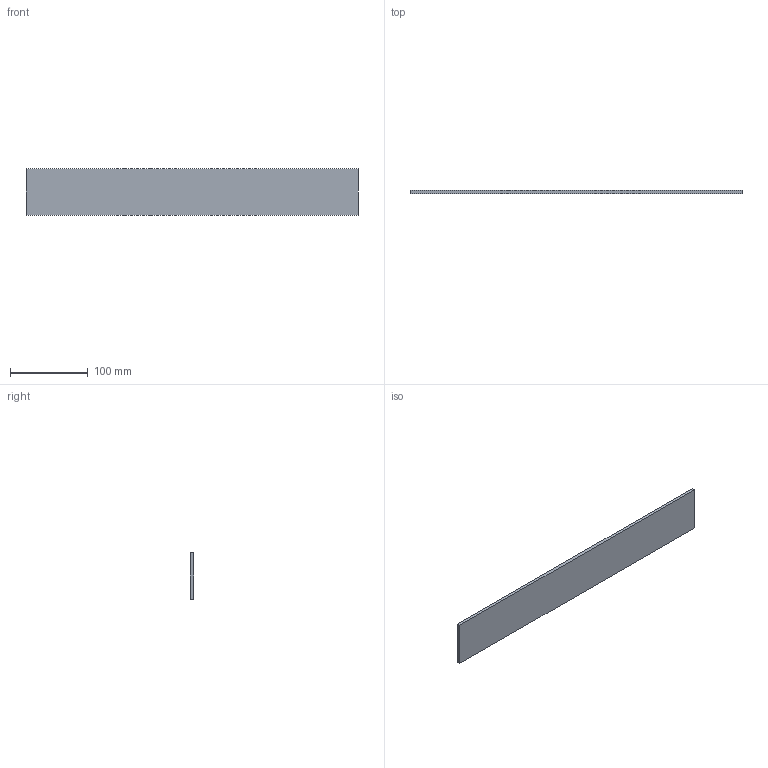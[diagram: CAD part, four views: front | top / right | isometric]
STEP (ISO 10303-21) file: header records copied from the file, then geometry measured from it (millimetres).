
FILE_DESCRIPTION(('CATIA V5 STEP Exchange'),'2;1');
FILE_NAME('C:\Users\user\Documents\Jakob\BAC - Arbeit 1\CAD Modell\CAD-Modell-Step files\Base\faceplate.stp','2018-12-13T14:14:45+00:00',('none'),('none'),'Version 5-6 Release 2012','CATIA V5 STEP AP203','none');
FILE_SCHEMA(('CONFIG_CONTROL_DESIGN'));
Length unit declared in the file: millimetre
Products named in the file (1): faceplate
Bounding box: 426 x 4 x 60 mm (x, y, z)
Volume: 102240 mm3; surface area: 55008 mm2
Topology: 1 solids, 1 shells, 6 faces, 12 edges, 8 vertices
Faces by surface type: plane 6
Entity records: 198 total; most frequent: CARTESIAN_POINT 27, DIRECTION 24, ORIENTED_EDGE 24, VECTOR 12, EDGE_CURVE 12, LINE 12, VERTEX_POINT 8, AXIS2_PLACEMENT_3D 7
